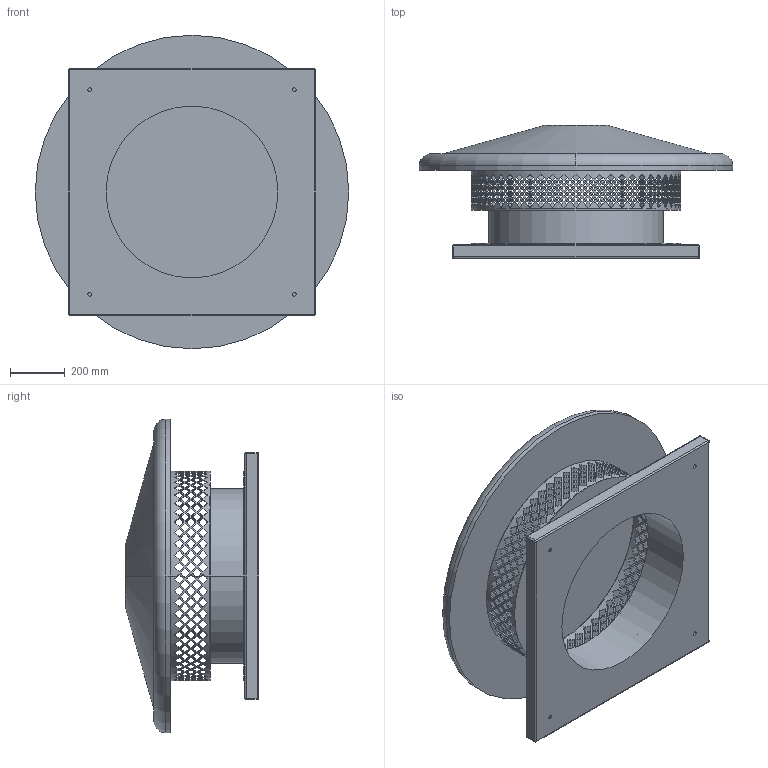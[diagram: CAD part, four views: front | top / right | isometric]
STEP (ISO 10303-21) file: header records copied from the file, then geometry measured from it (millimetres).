
FILE_DESCRIPTION(('STEP AP214'),'1');
FILE_NAME('fan_5113407000.stp','2017-03-31T12:41:11',('TraceParts'),('TraceParts S.A.'),'Spatial InterOp 3D',' ',' ');
FILE_SCHEMA(('automotive_design'));
Length unit declared in the file: millimetre
Products named in the file (1): fan_5113407000
Bounding box: 1150 x 488 x 1150 mm (x, y, z)
Volume: 123678085.3 mm3; surface area: 4754316.8 mm2
Topology: 1 solids, 1 shells, 1159 faces, 3496 edges, 2318 vertices
Faces by surface type: plane 1113, cylinder 32, sphere 8, torus 4, cone 2
Entity records: 51032 total; most frequent: DIRECTION 8130, ORIENTED_EDGE 6976, CARTESIAN_POINT 6966, EDGE_CURVE 3488, AXIS2_PLACEMENT_3D 3482, VERTEX_POINT 2318, ELLIPSE 2240, EDGE_LOOP 1704
